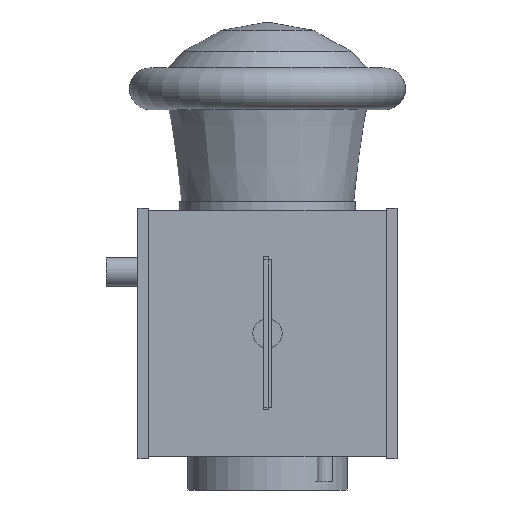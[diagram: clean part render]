
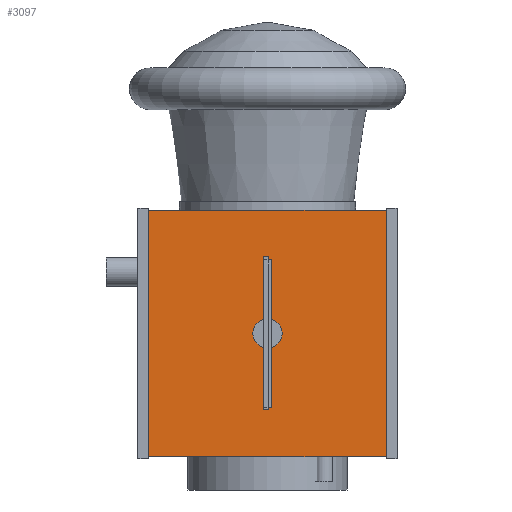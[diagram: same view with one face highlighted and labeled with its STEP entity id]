
A CAD part, left-side view. The second image highlights one B-rep face of the part: STEP entity #3097.
In plain terms, the highlighted planar face has unit normal (-1, 0, 0).
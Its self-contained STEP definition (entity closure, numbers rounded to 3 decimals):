
#3097 = ADVANCED_FACE('',(#3098),#3112,.F.);
#3098 = FACE_BOUND('',#3099,.F.);
#3099 = EDGE_LOOP('',(#3100,#3135,#3163,#3191));
#3100 = ORIENTED_EDGE('',*,*,#3101,.F.);
#3101 = EDGE_CURVE('',#3102,#3104,#3106,.T.);
#3102 = VERTEX_POINT('',#3103);
#3103 = CARTESIAN_POINT('',(-0.296,-0.296,-0.59));
#3104 = VERTEX_POINT('',#3105);
#3105 = CARTESIAN_POINT('',(-0.296,-0.296,0.));
#3106 = SURFACE_CURVE('',#3107,(#3111,#3123),.PCURVE_S1.);
#3107 = LINE('',#3108,#3109);
#3108 = CARTESIAN_POINT('',(-0.296,-0.296,-0.59));
#3109 = VECTOR('',#3110,1.);
#3110 = DIRECTION('',(0.,0.,1.));
#3111 = PCURVE('',#3112,#3117);
#3112 = PLANE('',#3113);
#3113 = AXIS2_PLACEMENT_3D('',#3114,#3115,#3116);
#3114 = CARTESIAN_POINT('',(-0.296,-0.296,-0.59));
#3115 = DIRECTION('',(1.,0.,0.));
#3116 = DIRECTION('',(0.,0.,1.));
#3117 = DEFINITIONAL_REPRESENTATION('',(#3118),#3122);
#3118 = LINE('',#3119,#3120);
#3119 = CARTESIAN_POINT('',(0.,0.));
#3120 = VECTOR('',#3121,1.);
#3121 = DIRECTION('',(1.,0.));
#3122 = ( GEOMETRIC_REPRESENTATION_CONTEXT(2) 
PARAMETRIC_REPRESENTATION_CONTEXT() REPRESENTATION_CONTEXT('2D SPACE',''
  ) );
#3123 = PCURVE('',#3124,#3129);
#3124 = PLANE('',#3125);
#3125 = AXIS2_PLACEMENT_3D('',#3126,#3127,#3128);
#3126 = CARTESIAN_POINT('',(-0.296,-0.296,-0.59));
#3127 = DIRECTION('',(0.,1.,0.));
#3128 = DIRECTION('',(0.,0.,1.));
#3129 = DEFINITIONAL_REPRESENTATION('',(#3130),#3134);
#3130 = LINE('',#3131,#3132);
#3131 = CARTESIAN_POINT('',(0.,0.));
#3132 = VECTOR('',#3133,1.);
#3133 = DIRECTION('',(1.,0.));
#3134 = ( GEOMETRIC_REPRESENTATION_CONTEXT(2) 
PARAMETRIC_REPRESENTATION_CONTEXT() REPRESENTATION_CONTEXT('2D SPACE',''
  ) );
#3135 = ORIENTED_EDGE('',*,*,#3136,.T.);
#3136 = EDGE_CURVE('',#3102,#3137,#3139,.T.);
#3137 = VERTEX_POINT('',#3138);
#3138 = CARTESIAN_POINT('',(-0.296,0.296,-0.59));
#3139 = SURFACE_CURVE('',#3140,(#3144,#3151),.PCURVE_S1.);
#3140 = LINE('',#3141,#3142);
#3141 = CARTESIAN_POINT('',(-0.296,-0.296,-0.59));
#3142 = VECTOR('',#3143,1.);
#3143 = DIRECTION('',(0.,1.,0.));
#3144 = PCURVE('',#3112,#3145);
#3145 = DEFINITIONAL_REPRESENTATION('',(#3146),#3150);
#3146 = LINE('',#3147,#3148);
#3147 = CARTESIAN_POINT('',(0.,0.));
#3148 = VECTOR('',#3149,1.);
#3149 = DIRECTION('',(0.,-1.));
#3150 = ( GEOMETRIC_REPRESENTATION_CONTEXT(2) 
PARAMETRIC_REPRESENTATION_CONTEXT() REPRESENTATION_CONTEXT('2D SPACE',''
  ) );
#3151 = PCURVE('',#3152,#3157);
#3152 = PLANE('',#3153);
#3153 = AXIS2_PLACEMENT_3D('',#3154,#3155,#3156);
#3154 = CARTESIAN_POINT('',(-0.296,-0.296,-0.59));
#3155 = DIRECTION('',(0.,0.,1.));
#3156 = DIRECTION('',(1.,0.,0.));
#3157 = DEFINITIONAL_REPRESENTATION('',(#3158),#3162);
#3158 = LINE('',#3159,#3160);
#3159 = CARTESIAN_POINT('',(0.,0.));
#3160 = VECTOR('',#3161,1.);
#3161 = DIRECTION('',(0.,1.));
#3162 = ( GEOMETRIC_REPRESENTATION_CONTEXT(2) 
PARAMETRIC_REPRESENTATION_CONTEXT() REPRESENTATION_CONTEXT('2D SPACE',''
  ) );
#3163 = ORIENTED_EDGE('',*,*,#3164,.T.);
#3164 = EDGE_CURVE('',#3137,#3165,#3167,.T.);
#3165 = VERTEX_POINT('',#3166);
#3166 = CARTESIAN_POINT('',(-0.296,0.296,0.));
#3167 = SURFACE_CURVE('',#3168,(#3172,#3179),.PCURVE_S1.);
#3168 = LINE('',#3169,#3170);
#3169 = CARTESIAN_POINT('',(-0.296,0.296,-0.59));
#3170 = VECTOR('',#3171,1.);
#3171 = DIRECTION('',(0.,0.,1.));
#3172 = PCURVE('',#3112,#3173);
#3173 = DEFINITIONAL_REPRESENTATION('',(#3174),#3178);
#3174 = LINE('',#3175,#3176);
#3175 = CARTESIAN_POINT('',(0.,-0.591));
#3176 = VECTOR('',#3177,1.);
#3177 = DIRECTION('',(1.,0.));
#3178 = ( GEOMETRIC_REPRESENTATION_CONTEXT(2) 
PARAMETRIC_REPRESENTATION_CONTEXT() REPRESENTATION_CONTEXT('2D SPACE',''
  ) );
#3179 = PCURVE('',#3180,#3185);
#3180 = PLANE('',#3181);
#3181 = AXIS2_PLACEMENT_3D('',#3182,#3183,#3184);
#3182 = CARTESIAN_POINT('',(-0.296,0.296,-0.59));
#3183 = DIRECTION('',(0.,1.,0.));
#3184 = DIRECTION('',(0.,0.,1.));
#3185 = DEFINITIONAL_REPRESENTATION('',(#3186),#3190);
#3186 = LINE('',#3187,#3188);
#3187 = CARTESIAN_POINT('',(0.,0.));
#3188 = VECTOR('',#3189,1.);
#3189 = DIRECTION('',(1.,0.));
#3190 = ( GEOMETRIC_REPRESENTATION_CONTEXT(2) 
PARAMETRIC_REPRESENTATION_CONTEXT() REPRESENTATION_CONTEXT('2D SPACE',''
  ) );
#3191 = ORIENTED_EDGE('',*,*,#3192,.F.);
#3192 = EDGE_CURVE('',#3104,#3165,#3193,.T.);
#3193 = SURFACE_CURVE('',#3194,(#3198,#3205),.PCURVE_S1.);
#3194 = LINE('',#3195,#3196);
#3195 = CARTESIAN_POINT('',(-0.296,-0.296,0.));
#3196 = VECTOR('',#3197,1.);
#3197 = DIRECTION('',(0.,1.,0.));
#3198 = PCURVE('',#3112,#3199);
#3199 = DEFINITIONAL_REPRESENTATION('',(#3200),#3204);
#3200 = LINE('',#3201,#3202);
#3201 = CARTESIAN_POINT('',(0.59,0.));
#3202 = VECTOR('',#3203,1.);
#3203 = DIRECTION('',(0.,-1.));
#3204 = ( GEOMETRIC_REPRESENTATION_CONTEXT(2) 
PARAMETRIC_REPRESENTATION_CONTEXT() REPRESENTATION_CONTEXT('2D SPACE',''
  ) );
#3205 = PCURVE('',#3206,#3211);
#3206 = PLANE('',#3207);
#3207 = AXIS2_PLACEMENT_3D('',#3208,#3209,#3210);
#3208 = CARTESIAN_POINT('',(-0.296,-0.296,0.));
#3209 = DIRECTION('',(0.,0.,1.));
#3210 = DIRECTION('',(1.,0.,0.));
#3211 = DEFINITIONAL_REPRESENTATION('',(#3212),#3216);
#3212 = LINE('',#3213,#3214);
#3213 = CARTESIAN_POINT('',(0.,0.));
#3214 = VECTOR('',#3215,1.);
#3215 = DIRECTION('',(0.,1.));
#3216 = ( GEOMETRIC_REPRESENTATION_CONTEXT(2) 
PARAMETRIC_REPRESENTATION_CONTEXT() REPRESENTATION_CONTEXT('2D SPACE',''
  ) );
